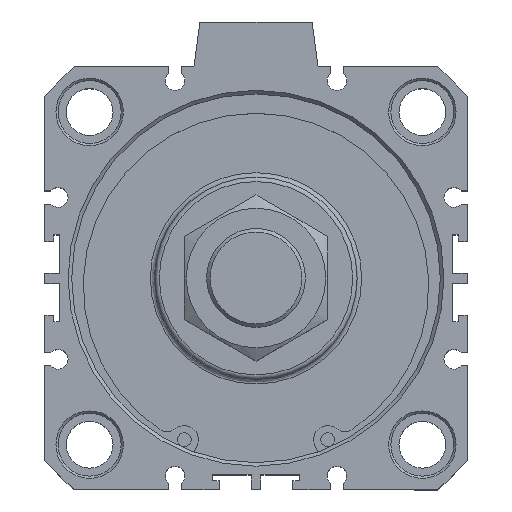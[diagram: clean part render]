
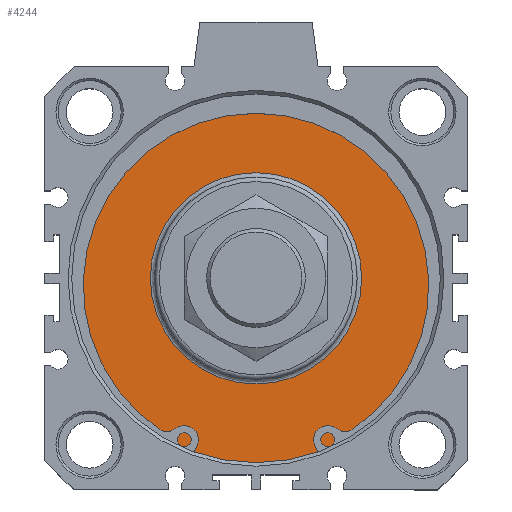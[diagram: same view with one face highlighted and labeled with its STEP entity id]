
A CAD part, top view. The second image highlights one B-rep face of the part: STEP entity #4244.
In plain terms, the highlighted planar face has unit normal (0, 0, 1).
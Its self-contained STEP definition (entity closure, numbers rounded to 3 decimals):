
#4193=CARTESIAN_POINT('',(2.632,21.227,45.6));
#4194=VERTEX_POINT('',#4193);
#4195=CARTESIAN_POINT('',(2.632,-2.273,45.6));
#4196=DIRECTION('',(0.0,0.0,1.0));
#4197=DIRECTION('',(0.0,-1.0,0.0));
#4198=AXIS2_PLACEMENT_3D('',#4195,#4196,#4197);
#4199=CIRCLE('',#4198,23.5);
#4200=EDGE_CURVE('',#4194,#4194,#4199,.T.);
#4225=CARTESIAN_POINT('',(2.632,29.477,45.6));
#4226=DIRECTION('',(0.0,0.0,1.0));
#4227=DIRECTION('',(1.0,0.0,0.0));
#4228=AXIS2_PLACEMENT_3D('',#4225,#4226,#4227);
#4229=PLANE('',#4228);
#4230=CARTESIAN_POINT('',(2.632,38.727,45.6));
#4231=VERTEX_POINT('',#4230);
#4232=CARTESIAN_POINT('',(2.632,-2.273,45.6));
#4233=DIRECTION('',(0.0,0.0,-1.0));
#4234=DIRECTION('',(0.0,1.0,0.0));
#4235=AXIS2_PLACEMENT_3D('',#4232,#4233,#4234);
#4236=CIRCLE('',#4235,41.);
#4237=EDGE_CURVE('',#4231,#4231,#4236,.T.);
#4238=ORIENTED_EDGE('',*,*,#4237,.F.);
#4239=EDGE_LOOP('',(#4238));
#4240=FACE_OUTER_BOUND('',#4239,.T.);
#4241=ORIENTED_EDGE('',*,*,#4200,.F.);
#4242=EDGE_LOOP('',(#4241));
#4243=FACE_BOUND('',#4242,.T.);
#4244=ADVANCED_FACE('',(#4240,#4243),#4229,.T.);
